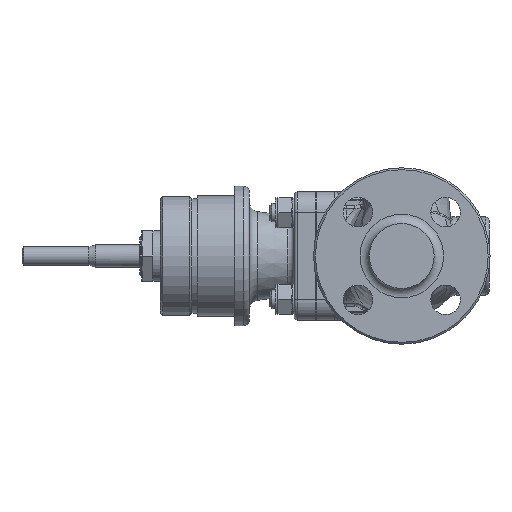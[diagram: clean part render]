
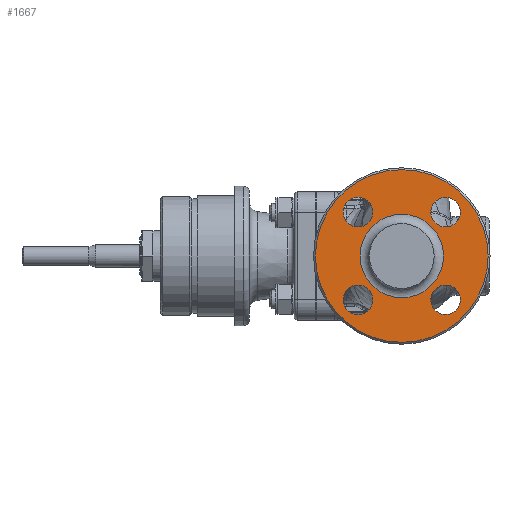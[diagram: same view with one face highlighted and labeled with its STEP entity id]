
A CAD part, left-side view. The second image highlights one B-rep face of the part: STEP entity #1667.
In plain terms, the highlighted planar face has unit normal (-1, 0, 0).
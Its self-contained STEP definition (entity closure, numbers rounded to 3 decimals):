
#953=FACE_BOUND('',#2778,.T.);
#954=FACE_BOUND('',#2779,.T.);
#955=FACE_BOUND('',#2780,.T.);
#956=FACE_BOUND('',#2781,.T.);
#957=FACE_BOUND('',#2782,.T.);
#958=FACE_BOUND('',#2783,.T.);
#1667=ADVANCED_FACE('',(#953,#954,#955,#956,#957,#958),#2168,.T.);
#2168=PLANE('',#8051);
#2778=EDGE_LOOP('',(#3685));
#2779=EDGE_LOOP('',(#3686));
#2780=EDGE_LOOP('',(#3687));
#2781=EDGE_LOOP('',(#3688));
#2782=EDGE_LOOP('',(#3689));
#2783=EDGE_LOOP('',(#3690));
#3685=ORIENTED_EDGE('',*,*,#6565,.T.);
#3686=ORIENTED_EDGE('',*,*,#6566,.F.);
#3687=ORIENTED_EDGE('',*,*,#6567,.F.);
#3688=ORIENTED_EDGE('',*,*,#6568,.F.);
#3689=ORIENTED_EDGE('',*,*,#6569,.F.);
#3690=ORIENTED_EDGE('',*,*,#6570,.T.);
#5836=VERTEX_POINT('',#12589);
#5837=VERTEX_POINT('',#12591);
#5838=VERTEX_POINT('',#12593);
#5839=VERTEX_POINT('',#12595);
#5840=VERTEX_POINT('',#12597);
#5841=VERTEX_POINT('',#12599);
#6565=EDGE_CURVE('',#5836,#5836,#7499,.T.);
#6566=EDGE_CURVE('',#5837,#5837,#7500,.T.);
#6567=EDGE_CURVE('',#5838,#5838,#7501,.T.);
#6568=EDGE_CURVE('',#5839,#5839,#7502,.T.);
#6569=EDGE_CURVE('',#5840,#5840,#7503,.T.);
#6570=EDGE_CURVE('',#5841,#5841,#7504,.T.);
#7499=CIRCLE('',#8045,46.5);
#7500=CIRCLE('',#8046,7.95);
#7501=CIRCLE('',#8047,7.95);
#7502=CIRCLE('',#8048,7.95);
#7503=CIRCLE('',#8049,7.95);
#7504=CIRCLE('',#8050,22.45);
#8045=AXIS2_PLACEMENT_3D('',#12588,#9164,#9165);
#8046=AXIS2_PLACEMENT_3D('',#12590,#9166,#9167);
#8047=AXIS2_PLACEMENT_3D('',#12592,#9168,#9169);
#8048=AXIS2_PLACEMENT_3D('',#12594,#9170,#9171);
#8049=AXIS2_PLACEMENT_3D('',#12596,#9172,#9173);
#8050=AXIS2_PLACEMENT_3D('',#12598,#9174,#9175);
#8051=AXIS2_PLACEMENT_3D('',#12600,#9176,#9177);
#9164=DIRECTION('',(-1.,0.,0.));
#9165=DIRECTION('',(0.,0.,1.));
#9166=DIRECTION('',(-1.,0.,0.));
#9167=DIRECTION('',(0.,0.,1.));
#9168=DIRECTION('',(-1.,0.,0.));
#9169=DIRECTION('',(0.,0.,1.));
#9170=DIRECTION('',(-1.,0.,0.));
#9171=DIRECTION('',(0.,0.,1.));
#9172=DIRECTION('',(-1.,0.,0.));
#9173=DIRECTION('',(0.,0.,1.));
#9174=DIRECTION('',(1.,0.,0.));
#9175=DIRECTION('',(0.,0.,1.));
#9176=DIRECTION('',(-1.,0.,0.));
#9177=DIRECTION('',(0.,0.,1.));
#12588=CARTESIAN_POINT('',(-94.7,0.,0.));
#12589=CARTESIAN_POINT('',(-94.7,0.,46.5));
#12590=CARTESIAN_POINT('',(-94.7,-23.582,23.582));
#12591=CARTESIAN_POINT('',(-94.7,-23.582,31.532));
#12592=CARTESIAN_POINT('',(-94.7,-23.582,-23.582));
#12593=CARTESIAN_POINT('',(-94.7,-23.582,-15.632));
#12594=CARTESIAN_POINT('',(-94.7,23.582,-23.582));
#12595=CARTESIAN_POINT('',(-94.7,23.582,-15.632));
#12596=CARTESIAN_POINT('',(-94.7,23.582,23.582));
#12597=CARTESIAN_POINT('',(-94.7,23.582,31.532));
#12598=CARTESIAN_POINT('',(-94.7,0.,0.));
#12599=CARTESIAN_POINT('',(-94.7,0.,22.45));
#12600=CARTESIAN_POINT('',(-94.7,47.5,0.));
